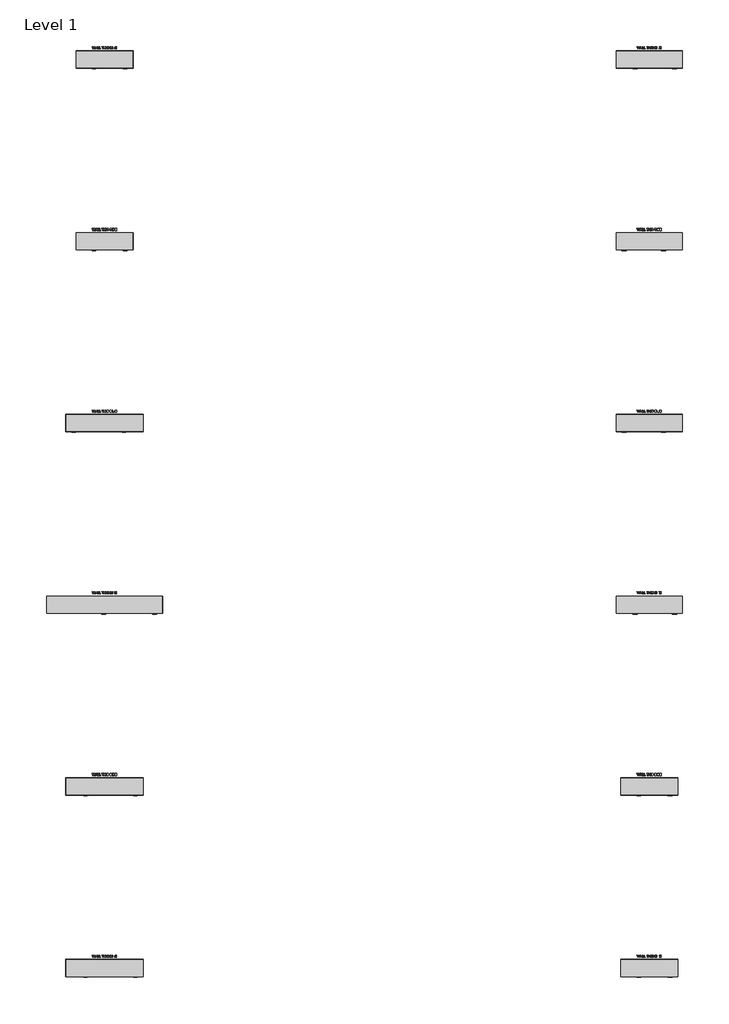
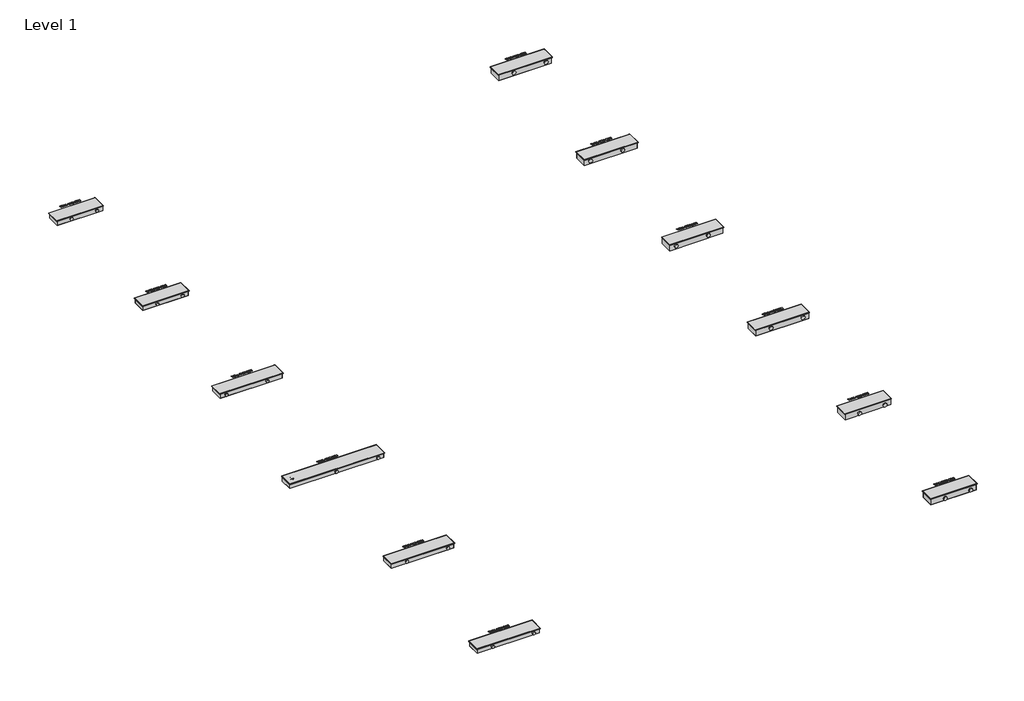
# One storey: 12 unitary equipment elements.
"""IFC4 building model written with IfcOpenShell, lengths in millimetres."""

from ifc_helpers import new_model, si_unit, origin, place, context, project, spatial, transform, mapped, element, save
from components import unitary_equipment_db606911, unitary_equipment_0b13c60d, unitary_equipment_82bee816, unitary_equipment_7f352352, unitary_equipment_4013172e, unitary_equipment_3566d16b, unitary_equipment_ad16c2c0

model = new_model("IFC4")

# Units and contexts
model_context = context("Model", 3, world=origin())
ifc_project = project(units=[si_unit("LENGTHUNIT", "METRE", prefix="MILLI")], contexts=[model_context])

# Site, building, storey
site = spatial("IfcSite", under=ifc_project)
building = spatial("IfcBuilding", under=site)
storey = spatial("IfcBuildingStorey", under=building, Name="Level 1", Elevation=0.0)

# Unitary equipment
placement = place(None, origin())
unitary_equipment_shape = unitary_equipment_db606911(model_context)
element("IfcUnitaryEquipment", 1, ObjectType="VERANO CVK4P-II : CVK4P-18/35-II", at=placement, inside=storey, context=model_context, shape_type="MappedRepresentation", body=[
    mapped(unitary_equipment_shape, transform((6000.0, -10000.0, 0.0), x_axis=(1.0, 0.0, 0.0), y_axis=(0.0, 1.0, 0.0), z_axis=(0.0, 0.0, 1.0))),
])
element("IfcUnitaryEquipment", 2, ObjectType="VERANO CVK4P-II : CVK4P-18/35-II", at=placement, inside=storey, context=model_context, shape_type="MappedRepresentation", body=[
    mapped(unitary_equipment_shape, transform((6000.0, -6000.0, 0.0), x_axis=(1.0, 0.0, 0.0), y_axis=(0.0, 1.0, 0.0), z_axis=(0.0, 0.0, 1.0))),
])
unitary_equipment_2_shape = unitary_equipment_0b13c60d(model_context)
element("IfcUnitaryEquipment", 3, ObjectType="VERANO CVK4P-II : CVK4P-14/35-II", at=placement, inside=storey, context=model_context, shape_type="MappedRepresentation", body=[
    mapped(unitary_equipment_2_shape, transform((-6000.0, -10000.0, 0.0), x_axis=(1.0, 0.0, 0.0), y_axis=(0.0, 1.0, 0.0), z_axis=(0.0, 0.0, 1.0))),
])
element("IfcUnitaryEquipment", 4, ObjectType="VERANO CVK4P-II : CVK4P-14/35-II", at=placement, inside=storey, context=model_context, shape_type="MappedRepresentation", body=[
    mapped(unitary_equipment_2_shape, transform((-6000.0, -6000.0, 0.0), x_axis=(1.0, 0.0, 0.0), y_axis=(0.0, 1.0, 0.0), z_axis=(0.0, 0.0, 1.0))),
])
unitary_equipment_3_shape = unitary_equipment_82bee816(model_context)
element("IfcUnitaryEquipment", 5, ObjectType="VERANO CVK4P-II : CVK4P-14/35-II", at=placement, inside=storey, context=model_context, shape_type="MappedRepresentation", body=[
    mapped(unitary_equipment_3_shape, transform((-6000.0, -2000.0, 0.0), x_axis=(1.0, 0.0, 0.0), y_axis=(0.0, 1.0, 0.0), z_axis=(0.0, 0.0, 1.0))),
])
unitary_equipment_4_shape = unitary_equipment_7f352352(model_context)
element("IfcUnitaryEquipment", 6, ObjectType="VERANO CVK4P-II : CVK4P-18/35-II", at=placement, inside=storey, context=model_context, shape_type="MappedRepresentation", body=[
    mapped(unitary_equipment_4_shape, transform((6000.0, -2000.0, 0.0), x_axis=(1.0, 0.0, 0.0), y_axis=(0.0, 1.0, 0.0), z_axis=(0.0, 0.0, 1.0))),
])
element("IfcUnitaryEquipment", 7, ObjectType="VERANO CVK4P-II : CVK4P-18/35-II", at=placement, inside=storey, context=model_context, shape_type="MappedRepresentation", body=[
    mapped(unitary_equipment_4_shape, transform((6000.0, 10000.0, 0.0), x_axis=(1.0, 0.0, 0.0), y_axis=(0.0, 1.0, 0.0), z_axis=(0.0, 0.0, 1.0))),
])
unitary_equipment_5_shape = unitary_equipment_4013172e(model_context)
element("IfcUnitaryEquipment", 8, ObjectType="VERANO CVK4P-II : CVK4P-14/35-II", at=placement, inside=storey, context=model_context, shape_type="MappedRepresentation", body=[
    mapped(unitary_equipment_5_shape, transform((-6000.0, 2000.0, 0.0), x_axis=(1.0, 0.0, 0.0), y_axis=(0.0, 1.0, 0.0), z_axis=(0.0, 0.0, 1.0))),
])
unitary_equipment_6_shape = unitary_equipment_3566d16b(model_context)
element("IfcUnitaryEquipment", 9, ObjectType="VERANO CVK4P-II : CVK4P-18/35-II", at=placement, inside=storey, context=model_context, shape_type="MappedRepresentation", body=[
    mapped(unitary_equipment_6_shape, transform((6000.0, 2000.0, 0.0), x_axis=(1.0, 0.0, 0.0), y_axis=(0.0, 1.0, 0.0), z_axis=(0.0, 0.0, 1.0))),
])
element("IfcUnitaryEquipment", 10, ObjectType="VERANO CVK4P-II : CVK4P-18/35-II", at=placement, inside=storey, context=model_context, shape_type="MappedRepresentation", body=[
    mapped(unitary_equipment_6_shape, transform((6000.0, 6000.0, 0.0), x_axis=(1.0, 0.0, 0.0), y_axis=(0.0, 1.0, 0.0), z_axis=(0.0, 0.0, 1.0))),
])
unitary_equipment_7_shape = unitary_equipment_ad16c2c0(model_context)
element("IfcUnitaryEquipment", 11, ObjectType="VERANO CVK4P-II : CVK4P-14/35-II", at=placement, inside=storey, context=model_context, shape_type="MappedRepresentation", body=[
    mapped(unitary_equipment_7_shape, transform((-6000.0, 6000.0, 0.0), x_axis=(1.0, 0.0, 0.0), y_axis=(0.0, 1.0, 0.0), z_axis=(0.0, 0.0, 1.0))),
])
element("IfcUnitaryEquipment", 12, ObjectType="VERANO CVK4P-II : CVK4P-14/35-II", at=placement, inside=storey, context=model_context, shape_type="MappedRepresentation", body=[
    mapped(unitary_equipment_7_shape, transform((-6000.0, 10000.0, 0.0), x_axis=(1.0, 0.0, 0.0), y_axis=(0.0, 1.0, 0.0), z_axis=(0.0, 0.0, 1.0))),
])

save(model, "model.ifc")
